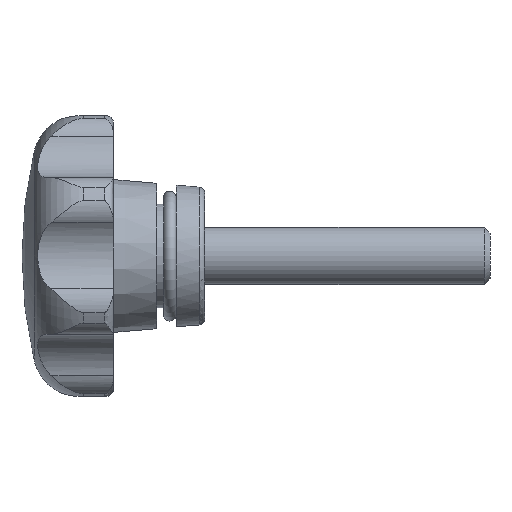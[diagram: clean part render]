
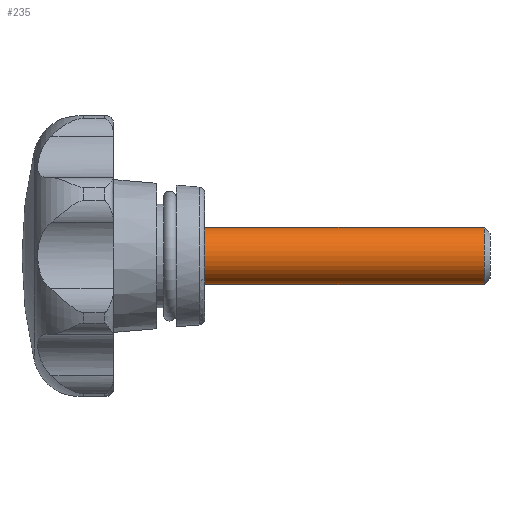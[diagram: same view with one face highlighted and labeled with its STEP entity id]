
A CAD part, left-side view. The second image highlights one B-rep face of the part: STEP entity #235.
In plain terms, the highlighted cylindrical face has radius 2.5 mm (diameter 5 mm), a full revolution.
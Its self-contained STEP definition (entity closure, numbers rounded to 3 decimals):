
#235 = ADVANCED_FACE( '', ( #466, #467 ), #468, .T. );
#466 = FACE_OUTER_BOUND( '', #798, .T. );
#467 = FACE_OUTER_BOUND( '', #799, .T. );
#468 = CYLINDRICAL_SURFACE( '', #800, 2.5 );
#798 = EDGE_LOOP( '', ( #1467 ) );
#799 = EDGE_LOOP( '', ( #1468 ) );
#800 = AXIS2_PLACEMENT_3D( '', #1469, #1470, #1471 );
#1467 = ORIENTED_EDGE( '', *, *, #2224, .F. );
#1468 = ORIENTED_EDGE( '', *, *, #2210, .T. );
#1469 = CARTESIAN_POINT( '', ( 0., -25., 0. ) );
#1470 = DIRECTION( '', ( 0., 1., 0. ) );
#1471 = DIRECTION( '', ( 0., 0., -1. ) );
#2210 = EDGE_CURVE( '', #2674, #2674, #2675, .T. );
#2224 = EDGE_CURVE( '', #2696, #2696, #2697, .T. );
#2674 = VERTEX_POINT( '', #4009 );
#2675 = CIRCLE( '', #4010, 2.5 );
#2696 = VERTEX_POINT( '', #4033 );
#2697 = CIRCLE( '', #4034, 2.5 );
#4009 = CARTESIAN_POINT( '', ( 0., 0., -2.5 ) );
#4010 = AXIS2_PLACEMENT_3D( '', #4639, #4640, #4641 );
#4033 = CARTESIAN_POINT( '', ( 0., -24.51, -2.5 ) );
#4034 = AXIS2_PLACEMENT_3D( '', #4674, #4675, #4676 );
#4639 = CARTESIAN_POINT( '', ( 0., 0., 0. ) );
#4640 = DIRECTION( '', ( 0., -1., 0. ) );
#4641 = DIRECTION( '', ( 0., 0., -1. ) );
#4674 = CARTESIAN_POINT( '', ( 0., -24.51, 0. ) );
#4675 = DIRECTION( '', ( 0., -1., 0. ) );
#4676 = DIRECTION( '', ( 0., 0., -1. ) );
